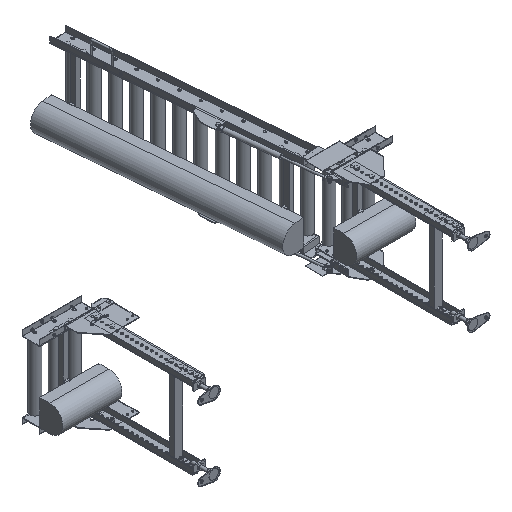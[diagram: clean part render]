
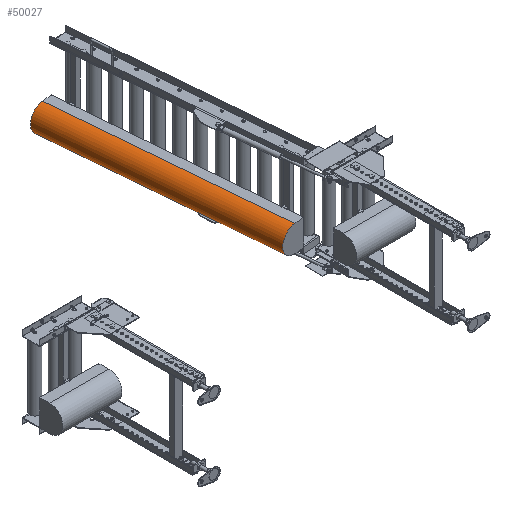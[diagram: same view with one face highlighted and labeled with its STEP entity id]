
A CAD part, isometric view. The second image highlights one B-rep face of the part: STEP entity #50027.
In plain terms, the highlighted cylindrical face has radius 66.89 mm (diameter 133.78 mm), a partial arc.
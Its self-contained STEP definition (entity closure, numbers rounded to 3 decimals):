
#2649 = DIRECTION ( 'NONE',  ( -0.087, 0.996, 0. ) ) ;
#5914 = CYLINDRICAL_SURFACE ( 'NONE', #38468, 66.89 ) ;
#12699 = CARTESIAN_POINT ( 'NONE',  ( -71.797, -158.438, -45.72 ) ) ;
#13493 = LINE ( 'NONE', #12699, #73937 ) ;
#13642 = CIRCLE ( 'NONE', #13994, 66.89 ) ;
#13994 = AXIS2_PLACEMENT_3D ( 'NONE', #37212, #2649, #36702 ) ;
#16135 = EDGE_CURVE ( 'NONE', #56400, #51628, #13642, .T. ) ;
#17878 = CARTESIAN_POINT ( 'NONE',  ( -190.216, 1196.047, -45.72 ) ) ;
#24529 = DIRECTION ( 'NONE',  ( 0., 0., 1. ) ) ;
#26365 = CARTESIAN_POINT ( 'NONE',  ( -87.269, 18.539, -45.72 ) ) ;
#28443 = ORIENTED_EDGE ( 'NONE', *, *, #56429, .T. ) ;
#28901 = LINE ( 'NONE', #68355, #53337 ) ;
#29359 = DIRECTION ( 'NONE',  ( -0.087, 0.996, 0. ) ) ;
#30808 = DIRECTION ( 'NONE',  ( 0., 0., -1. ) ) ;
#30852 = CARTESIAN_POINT ( 'NONE',  ( -71.797, -158.438, -112.61 ) ) ;
#36702 = DIRECTION ( 'NONE',  ( 0., 0., -1. ) ) ;
#37212 = CARTESIAN_POINT ( 'NONE',  ( -190.216, 1196.047, -112.61 ) ) ;
#38115 = ORIENTED_EDGE ( 'NONE', *, *, #66268, .F. ) ;
#38468 = AXIS2_PLACEMENT_3D ( 'NONE', #30852, #48534, #24529 ) ;
#39538 = DIRECTION ( 'NONE',  ( -0.087, 0.996, 0. ) ) ;
#42816 = ORIENTED_EDGE ( 'NONE', *, *, #16135, .F. ) ;
#43458 = ORIENTED_EDGE ( 'NONE', *, *, #70946, .T. ) ;
#46319 = AXIS2_PLACEMENT_3D ( 'NONE', #70703, #59312, #30808 ) ;
#47507 = EDGE_LOOP ( 'NONE', ( #38115, #43458, #28443, #42816 ) ) ;
#48534 = DIRECTION ( 'NONE',  ( -0.087, 0.996, 0. ) ) ;
#50027 = ADVANCED_FACE ( 'NONE', ( #53786 ), #5914, .T. ) ;
#51628 = VERTEX_POINT ( 'NONE', #17878 ) ;
#52094 = VERTEX_POINT ( 'NONE', #57138 ) ;
#52845 = CARTESIAN_POINT ( 'NONE',  ( -190.216, 1196.047, -179.5 ) ) ;
#53337 = VECTOR ( 'NONE', #39538, 1000. ) ;
#53786 = FACE_OUTER_BOUND ( 'NONE', #47507, .T. ) ;
#55089 = VERTEX_POINT ( 'NONE', #26365 ) ;
#56400 = VERTEX_POINT ( 'NONE', #52845 ) ;
#56429 = EDGE_CURVE ( 'NONE', #55089, #51628, #13493, .T. ) ;
#57138 = CARTESIAN_POINT ( 'NONE',  ( -87.269, 18.539, -179.5 ) ) ;
#59312 = DIRECTION ( 'NONE',  ( -0.087, 0.996, 0. ) ) ;
#66268 = EDGE_CURVE ( 'NONE', #52094, #56400, #28901, .T. ) ;
#68355 = CARTESIAN_POINT ( 'NONE',  ( -71.797, -158.438, -179.5 ) ) ;
#68456 = CIRCLE ( 'NONE', #46319, 66.89 ) ;
#70703 = CARTESIAN_POINT ( 'NONE',  ( -87.269, 18.539, -112.61 ) ) ;
#70946 = EDGE_CURVE ( 'NONE', #52094, #55089, #68456, .T. ) ;
#73937 = VECTOR ( 'NONE', #29359, 1000. ) ;
